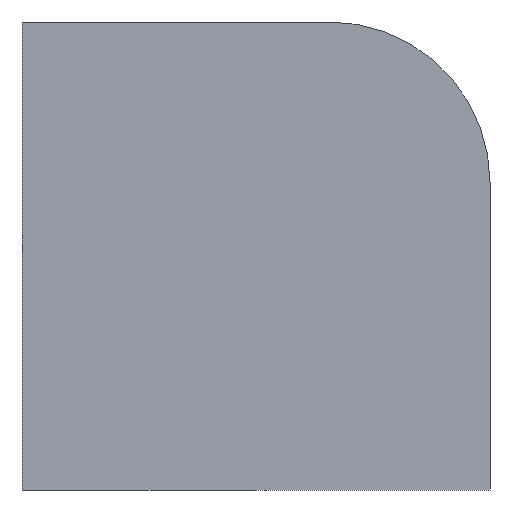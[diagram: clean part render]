
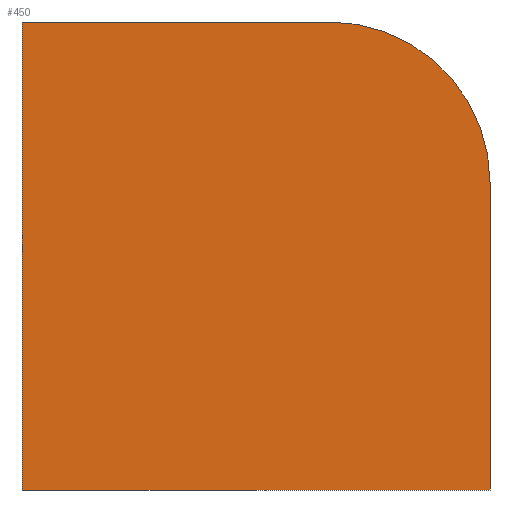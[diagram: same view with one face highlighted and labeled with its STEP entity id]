
A CAD part, left-side view. The second image highlights one B-rep face of the part: STEP entity #450.
In plain terms, the highlighted planar face has unit normal (-1, 0, 0).
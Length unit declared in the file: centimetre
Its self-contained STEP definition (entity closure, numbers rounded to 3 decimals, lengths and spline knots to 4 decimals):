
#10 = EDGE_CURVE ( 'NONE', #247, #507, #211, .T. ) ;
#18 = CARTESIAN_POINT ( 'NONE',  ( 0., 1000., 1000. ) ) ;
#59 = ORIENTED_EDGE ( 'NONE', *, *, #81, .F. ) ;
#75 = CIRCLE ( 'NONE', #256, 343.5024 ) ;
#81 = EDGE_CURVE ( 'NONE', #320, #530, #371, .T. ) ;
#118 = ORIENTED_EDGE ( 'NONE', *, *, #241, .T. ) ;
#187 = CARTESIAN_POINT ( 'NONE',  ( 0., 0., 0. ) ) ;
#211 = LINE ( 'NONE', #426, #470 ) ;
#216 = VECTOR ( 'NONE', #527, 100. ) ;
#236 = LINE ( 'NONE', #317, #216 ) ;
#241 = EDGE_CURVE ( 'NONE', #320, #418, #236, .T. ) ;
#247 = VERTEX_POINT ( 'NONE', #362 ) ;
#256 = AXIS2_PLACEMENT_3D ( 'NONE', #302, #477, #508 ) ;
#263 = CARTESIAN_POINT ( 'NONE',  ( 0., 1000., 1000. ) ) ;
#287 = DIRECTION ( 'NONE',  ( 0., 0., -1. ) ) ;
#296 = ORIENTED_EDGE ( 'NONE', *, *, #10, .F. ) ;
#302 = CARTESIAN_POINT ( 'NONE',  ( 0., 343.5024, 656.4976 ) ) ;
#317 = CARTESIAN_POINT ( 'NONE',  ( 0., 1000., 1000. ) ) ;
#320 = VERTEX_POINT ( 'NONE', #263 ) ;
#332 = CARTESIAN_POINT ( 'NONE',  ( 0., 1000., 0. ) ) ;
#345 = DIRECTION ( 'NONE',  ( 1., 0., 0. ) ) ;
#362 = CARTESIAN_POINT ( 'NONE',  ( 0., 0., 656.4976 ) ) ;
#371 = LINE ( 'NONE', #502, #528 ) ;
#393 = PLANE ( 'NONE',  #536 ) ;
#395 = LINE ( 'NONE', #440, #451 ) ;
#418 = VERTEX_POINT ( 'NONE', #332 ) ;
#426 = CARTESIAN_POINT ( 'NONE',  ( 0., 0., 1000. ) ) ;
#440 = CARTESIAN_POINT ( 'NONE',  ( 0., 1000., 0. ) ) ;
#450 = ADVANCED_FACE ( 'NONE', ( #475 ), #393, .F. ) ;
#451 = VECTOR ( 'NONE', #481, 100. ) ;
#459 = EDGE_CURVE ( 'NONE', #247, #530, #75, .T. ) ;
#467 = EDGE_LOOP ( 'NONE', ( #296, #476, #59, #118, #492 ) ) ;
#470 = VECTOR ( 'NONE', #287, 100. ) ;
#475 = FACE_OUTER_BOUND ( 'NONE', #467, .T. ) ;
#476 = ORIENTED_EDGE ( 'NONE', *, *, #459, .T. ) ;
#477 = DIRECTION ( 'NONE',  ( -1., 0., 0. ) ) ;
#481 = DIRECTION ( 'NONE',  ( 0., -1., 0. ) ) ;
#492 = ORIENTED_EDGE ( 'NONE', *, *, #510, .T. ) ;
#502 = CARTESIAN_POINT ( 'NONE',  ( 0., 1000., 1000. ) ) ;
#507 = VERTEX_POINT ( 'NONE', #187 ) ;
#508 = DIRECTION ( 'NONE',  ( 0., 0., -1. ) ) ;
#510 = EDGE_CURVE ( 'NONE', #418, #507, #395, .T. ) ;
#517 = DIRECTION ( 'NONE',  ( 0., 0., -1. ) ) ;
#518 = CARTESIAN_POINT ( 'NONE',  ( 0., 343.5024, 1000. ) ) ;
#527 = DIRECTION ( 'NONE',  ( 0., 0., -1. ) ) ;
#528 = VECTOR ( 'NONE', #540, 100. ) ;
#530 = VERTEX_POINT ( 'NONE', #518 ) ;
#536 = AXIS2_PLACEMENT_3D ( 'NONE', #18, #345, #517 ) ;
#540 = DIRECTION ( 'NONE',  ( 0., -1., 0. ) ) ;
